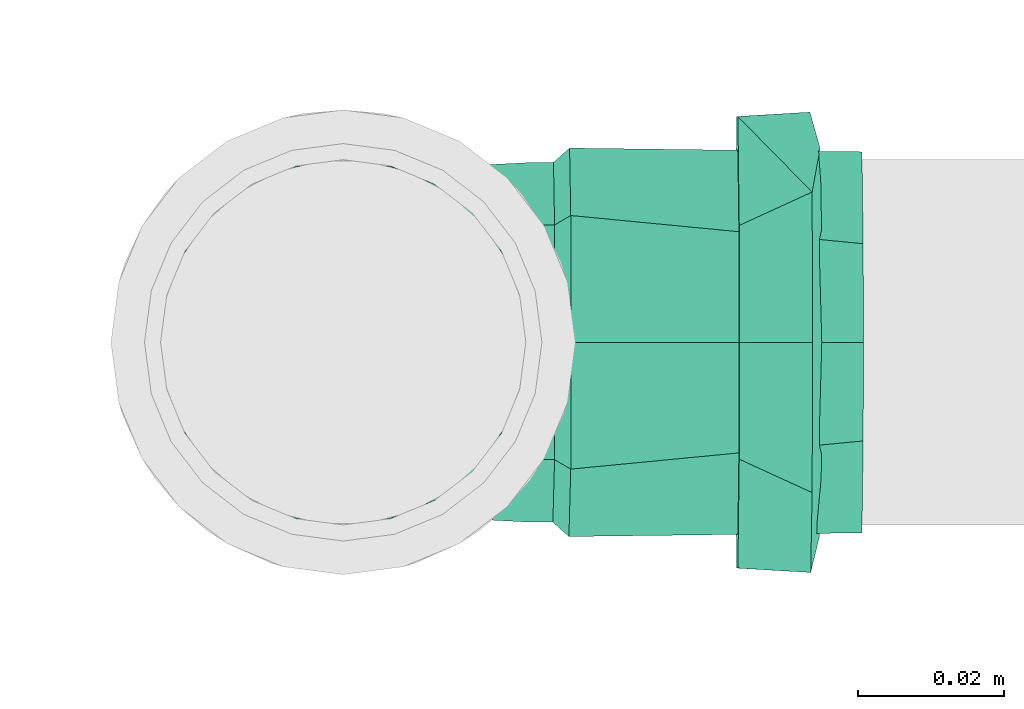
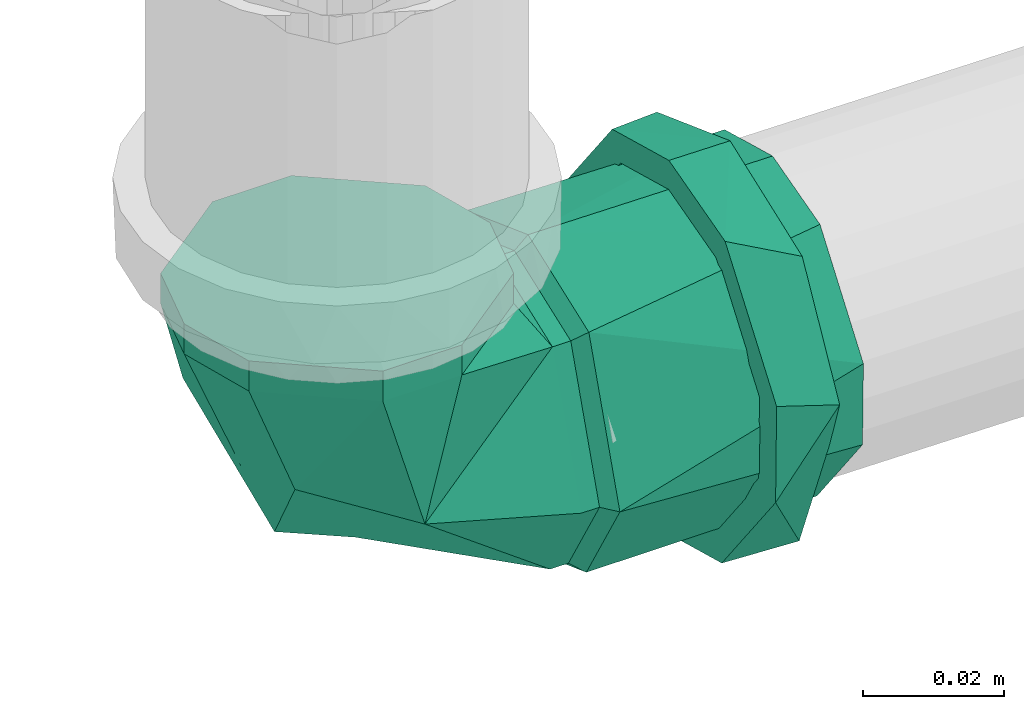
# One storey, part 202 of 589: 1 flow fitting.
"""IFC2X3 building model written with IfcOpenShell, lengths in millimetres."""

from ifc_helpers import new_model, entity, si_unit, converted_unit, derived_unit, direction, frame, origin, place, context, subcontext, project, spatial, faceted_brep, source, transform, mapped, material, type_object, type_shapes, element, save


model = new_model("IFC2X3")

# Units and contexts
model_context = context("Model", 3, precision=0.01, world=origin(), true_north=direction((6.123031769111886e-17, 1.0)))
body_context = subcontext(model_context, "Body", "Model", "MODEL_VIEW")
ifc_project = project(units=[si_unit("LENGTHUNIT", "METRE", prefix="MILLI"), si_unit("AREAUNIT", "SQUARE_METRE"), si_unit("VOLUMEUNIT", "CUBIC_METRE"), converted_unit("PLANEANGLEUNIT", "DEGREE", entity("IfcRatioMeasure", 0.017453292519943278), si_unit("PLANEANGLEUNIT", "RADIAN"), dimensions=[0, 0, 0, 0, 0, 0, 0]), si_unit("MASSUNIT", "GRAM", prefix="KILO"), derived_unit("MASSDENSITYUNIT", [(si_unit("MASSUNIT", "GRAM", prefix="KILO"), 1), (si_unit("LENGTHUNIT", "METRE"), -3)]), derived_unit("IONCONCENTRATIONUNIT", [(si_unit("MASSUNIT", "GRAM", prefix="KILO"), 1), (si_unit("LENGTHUNIT", "METRE"), -3)]), derived_unit("MOMENTOFINERTIAUNIT", [(si_unit("LENGTHUNIT", "METRE"), 4)]), si_unit("TIMEUNIT", "SECOND"), si_unit("FREQUENCYUNIT", "HERTZ"), si_unit("THERMODYNAMICTEMPERATUREUNIT", "DEGREE_CELSIUS"), derived_unit("THERMALTRANSMITTANCEUNIT", [(si_unit("MASSUNIT", "GRAM", prefix="KILO"), 1), (si_unit("THERMODYNAMICTEMPERATUREUNIT", "KELVIN"), -1), (si_unit("TIMEUNIT", "SECOND"), -3)]), derived_unit("THERMALCONDUCTANCEUNIT", [(si_unit("MASSUNIT", "GRAM", prefix="KILO"), 1), (si_unit("THERMODYNAMICTEMPERATUREUNIT", "KELVIN"), -1), (si_unit("TIMEUNIT", "SECOND"), -3), (si_unit("LENGTHUNIT", "METRE"), 1)]), derived_unit("VOLUMETRICFLOWRATEUNIT", [(si_unit("LENGTHUNIT", "METRE"), 3), (si_unit("TIMEUNIT", "SECOND"), -1)]), derived_unit("MASSFLOWRATEUNIT", [(si_unit("MASSUNIT", "GRAM", prefix="KILO"), 1), (si_unit("TIMEUNIT", "SECOND"), -1)]), derived_unit("ROTATIONALFREQUENCYUNIT", [(si_unit("TIMEUNIT", "SECOND"), -1)]), si_unit("ELECTRICCURRENTUNIT", "AMPERE"), si_unit("ELECTRICVOLTAGEUNIT", "VOLT"), si_unit("POWERUNIT", "WATT"), si_unit("FORCEUNIT", "NEWTON", prefix="KILO"), si_unit("ILLUMINANCEUNIT", "LUX"), si_unit("LUMINOUSFLUXUNIT", "LUMEN"), si_unit("LUMINOUSINTENSITYUNIT", "CANDELA"), derived_unit("USERDEFINED", [(si_unit("MASSUNIT", "GRAM", prefix="KILO"), -1), (si_unit("LENGTHUNIT", "METRE"), -2), (si_unit("TIMEUNIT", "SECOND"), 3), (si_unit("LUMINOUSFLUXUNIT", "LUMEN"), 1)]), derived_unit("USERDEFINED", [(si_unit("MASSUNIT", "GRAM", prefix="KILO"), 1), (si_unit("TIMEUNIT", "SECOND"), -3), (si_unit("LENGTHUNIT", "METRE"), 3), (si_unit("ELECTRICCURRENTUNIT", "AMPERE"), -2)]), derived_unit("SOUNDPOWERUNIT", [(si_unit("MASSUNIT", "GRAM", prefix="KILO"), 1), (si_unit("TIMEUNIT", "SECOND"), -3), (si_unit("LENGTHUNIT", "METRE"), 2)]), derived_unit("SOUNDPRESSUREUNIT", [(si_unit("MASSUNIT", "GRAM", prefix="KILO"), 1), (si_unit("LENGTHUNIT", "METRE"), -1), (si_unit("TIMEUNIT", "SECOND"), -2)]), derived_unit("LINEARVELOCITYUNIT", [(si_unit("LENGTHUNIT", "METRE"), 1), (si_unit("TIMEUNIT", "SECOND"), -1)]), si_unit("PRESSUREUNIT", "PASCAL"), derived_unit("USERDEFINED", [(si_unit("MASSUNIT", "GRAM", prefix="KILO"), 1), (si_unit("LENGTHUNIT", "METRE"), -2), (si_unit("TIMEUNIT", "SECOND"), -2)]), derived_unit("LINEARFORCEUNIT", [(si_unit("MASSUNIT", "GRAM", prefix="KILO"), 1), (si_unit("TIMEUNIT", "SECOND"), -2)]), derived_unit("PLANARFORCEUNIT", [(si_unit("MASSUNIT", "GRAM", prefix="KILO"), 1), (si_unit("LENGTHUNIT", "METRE"), -1), (si_unit("TIMEUNIT", "SECOND"), -2)]), derived_unit("SPECIFICHEATCAPACITYUNIT", [(si_unit("THERMODYNAMICTEMPERATUREUNIT", "KELVIN"), -1), (si_unit("LENGTHUNIT", "METRE"), 2), (si_unit("TIMEUNIT", "SECOND"), -2)]), derived_unit("HEATINGVALUEUNIT", [(si_unit("LENGTHUNIT", "METRE"), 2), (si_unit("TIMEUNIT", "SECOND"), -2)]), derived_unit("VAPORPERMEABILITYUNIT", [(si_unit("LENGTHUNIT", "METRE"), -1), (si_unit("TIMEUNIT", "SECOND"), 1)]), derived_unit("DYNAMICVISCOSITYUNIT", [(si_unit("MASSUNIT", "GRAM", prefix="KILO"), 1), (si_unit("TIMEUNIT", "SECOND"), -1), (si_unit("LENGTHUNIT", "METRE"), -1)]), derived_unit("THERMALEXPANSIONCOEFFICIENTUNIT", [(si_unit("THERMODYNAMICTEMPERATUREUNIT", "KELVIN"), -1)]), derived_unit("MODULUSOFELASTICITYUNIT", [(si_unit("MASSUNIT", "GRAM", prefix="KILO"), 1), (si_unit("LENGTHUNIT", "METRE"), -1), (si_unit("TIMEUNIT", "SECOND"), -2)]), derived_unit("ISOTHERMALMOISTURECAPACITYUNIT", [(si_unit("LENGTHUNIT", "METRE"), 3), (si_unit("MASSUNIT", "GRAM", prefix="KILO"), -1)]), derived_unit("MOISTUREDIFFUSIVITYUNIT", [(si_unit("TIMEUNIT", "SECOND"), -1), (si_unit("LENGTHUNIT", "METRE"), 2)])], contexts=[model_context])

# Site, building, storey
site_placement = place(None, origin())
site = spatial("IfcSite", under=ifc_project, at=site_placement, Name="Default", CompositionType="ELEMENT")
building_placement = place(site_placement, origin())
building = spatial("IfcBuilding", under=site, at=building_placement, CompositionType="ELEMENT")
storey_placement = place(building_placement, frame((0.0, 0.0, 100.0)))
storey = spatial("IfcBuildingStorey", under=building, at=storey_placement, Name="TÉRREO", CompositionType="ELEMENT", Elevation=100.0)

# Flow fitting
ifc_material = material(Name="PVC Série Normal")
pipe_fitting_type = type_object("IfcPipeFittingType", Name="PVC Esgoto_Joelho 45_90_Rodrigo MEP:a. Série Normal", PredefinedType="NOTDEFINED", material=ifc_material)
shared_shape = source(origin(), body_context, "Body", "Brep", [
    faceted_brep([(25.256150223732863, -25.490025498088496, 0.0), (21.906952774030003, -25.52351747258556, -12.500000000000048), (6.727552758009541, -25.675311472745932, -24.14814565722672), (-6.21275249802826, -25.804714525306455, -24.1481456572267), (-21.392152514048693, -25.956508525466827, -12.499999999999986), (-24.741349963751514, -25.990000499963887, 0.0), (-21.392152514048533, -25.95650852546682, 12.500000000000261), (-6.212752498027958, -25.804714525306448, 24.14814565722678), (6.7275527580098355, -25.675311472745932, 24.148145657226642), (21.906952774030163, -25.52351747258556, 12.499999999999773), (-6.160755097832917, -31.00445454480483, 24.14814565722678), (-21.340155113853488, -31.1562485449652, 12.500000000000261), (-24.689352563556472, -31.18974051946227, 0.0), (-21.34015511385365, -31.156248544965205, -12.499999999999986), (-6.160755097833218, -31.004454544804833, -24.1481456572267), (6.779550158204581, -30.87505149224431, -24.14814565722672), (21.958950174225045, -30.72325749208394, -12.500000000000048), (25.308147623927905, -30.689765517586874, 0.0), (21.958950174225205, -30.72325749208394, 12.499999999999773), (6.779550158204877, -30.87505149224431, 24.148145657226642)], [[[0, 1, 2, 3, 4, 5, 6, 7, 8, 9]], [[10, 11, 12, 13, 14, 15, 16, 17, 18, 19]], [[18, 17, 0, 9]], [[19, 18, 9, 8]], [[8, 7, 10, 19]], [[11, 10, 7, 6]], [[12, 11, 6, 5]], [[13, 12, 5, 4]], [[14, 13, 4, 3]], [[3, 2, 15, 14]], [[16, 15, 2, 1]], [[17, 16, 1, 0]]]),
    faceted_brep([(-70.94129996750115, -6.4704761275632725, -24.148145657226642), (-70.94129996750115, 6.47047612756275, -24.14814565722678), (-70.94129996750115, 6.988114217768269, -26.07999730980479), (-70.94129996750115, -6.988114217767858, -26.0799973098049), (-70.94129996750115, -21.6506350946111, -12.499999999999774), (-70.94129996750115, 23.382685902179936, -13.499999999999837), (-70.94129996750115, 21.650635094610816, -12.500000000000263), (-70.94129996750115, 25.0, 0.0), (-70.94129996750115, 27.0, 0.0), (-70.94129996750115, 21.650635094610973, 12.499999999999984), (-70.94129996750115, 23.382685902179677, 13.500000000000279), (-70.94129996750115, 6.470476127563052, 24.1481456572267), (-70.94129996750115, 6.98811421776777, 26.079997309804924), (-70.94129996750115, -6.470476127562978, 24.14814565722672), (-70.94129996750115, -6.988114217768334, 26.07999730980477), (-70.94129996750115, -21.650635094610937, 12.500000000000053), (-70.94129996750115, -23.38268590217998, 13.499999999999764), (-70.94129996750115, -27.0, 0.0), (-70.94129996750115, -25.0, 0.0), (-70.94129996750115, -23.382685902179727, -13.500000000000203), (-30.94129996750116, -25.0, 0.0), (-30.94129996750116, -21.650635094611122, -12.499999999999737), (-30.94129996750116, -6.4704761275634, -24.148145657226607), (-30.94129996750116, 6.470476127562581, -24.148145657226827), (-30.94129996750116, 21.650635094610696, -12.500000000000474), (-30.94129996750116, 25.0, 0.0), (-30.94129996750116, 21.65063509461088, 12.500000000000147), (-30.94129996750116, 6.470476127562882, 24.14814565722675), (-30.94129996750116, -6.470476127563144, 24.148145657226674), (-30.94129996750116, -21.650635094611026, 12.499999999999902), (-30.94129996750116, -27.0, 0.0), (-30.941299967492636, -20.682232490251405, 17.356418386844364), (-30.941299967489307, -7.995013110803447, 21.972787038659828), (-30.941299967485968, 4.692206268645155, 26.589155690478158), (-30.94129996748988, 20.686585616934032, 17.35122979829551), (-30.94129996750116, 27.0, 0.0), (-30.94129996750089, 20.686585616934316, -17.35122979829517), (-30.941299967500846, 8.000524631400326, -21.970780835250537), (-30.941299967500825, -4.6855363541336, -26.59033187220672), (-30.94129996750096, -20.682232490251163, -17.356418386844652), (-28.741299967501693, -4.344635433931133, -24.619588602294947), (-28.741299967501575, -19.15424594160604, -16.06595351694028), (-28.741299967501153, -25.0, 0.0), (-28.741299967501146, 25.0, 0.0), (-28.74129996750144, 19.15021526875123, -16.07075776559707), (-28.74129996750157, 7.402789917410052, -20.345173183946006), (-28.741299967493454, 19.150215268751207, 16.070757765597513), (-28.741299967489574, -7.407893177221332, 20.34331558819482), (-28.741299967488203, 4.338459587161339, 24.620677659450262), (-28.741299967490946, -19.154245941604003, 16.065953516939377), (-25.741299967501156, -25.0, 0.0), (-25.741299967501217, -19.151286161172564, 16.069481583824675), (-25.7412999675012, -7.405117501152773, 20.34485121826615), (-25.741299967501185, 4.3410511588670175, 24.620220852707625), (-25.741299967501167, 19.15106105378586, 16.069749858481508), (-25.741299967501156, 25.0, 0.0), (-25.741299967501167, 19.15106105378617, -16.069749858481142), (-25.741299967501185, 7.4048325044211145, -20.344954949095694), (-25.741299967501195, -4.341396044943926, -24.620160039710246), (-25.741299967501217, -19.15128616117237, -16.069481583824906), (21.90695277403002, -25.523517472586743, -12.500000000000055), (25.256150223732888, -25.490025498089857, 0.0), (21.906952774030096, -25.52351747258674, 12.499999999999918), (6.7275527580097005, -25.67531147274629, 24.148145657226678), (-6.2127524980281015, -25.80471452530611, 24.14814565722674), (-21.3921525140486, -25.956508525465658, 12.500000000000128), (-24.74134996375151, -25.990000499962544, 0.0), (-21.39215251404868, -25.95650852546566, -12.499999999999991), (-6.212752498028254, -25.80471452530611, -24.1481456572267), (6.727552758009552, -25.67531147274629, -24.14814565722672), (-0.875171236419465, -1.4332887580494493, 23.341145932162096), (-3.2027279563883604, 15.730161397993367, 0.0), (16.135012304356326, -8.632944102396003, 15.848254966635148), (10.140389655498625, 10.242300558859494, 0.0), (-25.03773742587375, -25.289366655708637, 0.0), (15.761400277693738, -3.0452732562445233, 0.0), (16.13501175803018, -8.632944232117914, -15.848255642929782), (-0.8358007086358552, -1.5246709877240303, -23.354961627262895)], [[[0, 1, 2]], [[2, 3, 0]], [[4, 0, 3]], [[5, 2, 1]], [[1, 6, 5]], [[6, 7, 5]], [[8, 5, 7]], [[8, 7, 9]], [[10, 8, 9]], [[9, 11, 10]], [[11, 12, 10]], [[13, 12, 11]], [[12, 13, 14]], [[13, 15, 14]], [[16, 14, 15]], [[16, 15, 17]], [[17, 15, 18]], [[18, 4, 19]], [[17, 18, 19]], [[3, 19, 4]], [[4, 18, 20, 21]], [[0, 4, 21, 22]], [[22, 23, 1, 0]], [[6, 1, 23, 24]], [[7, 6, 24, 25]], [[9, 7, 25, 26]], [[11, 9, 26, 27]], [[27, 28, 13, 11]], [[15, 13, 28, 29]], [[18, 15, 29, 20]], [[30, 16, 17]], [[30, 31, 16]], [[14, 16, 31]], [[14, 31, 32, 33]], [[10, 12, 34]], [[8, 10, 35]], [[33, 34, 12]], [[35, 10, 34]], [[14, 33, 12]], [[35, 5, 8]], [[35, 36, 5]], [[2, 5, 36]], [[2, 36, 37, 38]], [[19, 3, 39]], [[17, 19, 30]], [[38, 39, 3]], [[30, 19, 39]], [[2, 38, 3]], [[28, 27, 26, 25, 24, 23, 22, 21, 20, 29]], [[39, 40, 41]], [[30, 41, 42]], [[39, 41, 30]], [[39, 38, 40]], [[36, 43, 44]], [[37, 36, 44]], [[40, 38, 45]], [[43, 36, 35]], [[37, 45, 38]], [[37, 44, 45]], [[34, 46, 43]], [[43, 35, 34]], [[46, 34, 33]], [[47, 32, 31]], [[33, 48, 46]], [[30, 42, 49]], [[49, 47, 31]], [[30, 49, 31]], [[33, 32, 48]], [[47, 48, 32]], [[50, 49, 42]], [[50, 51, 49]], [[48, 52, 53]], [[47, 51, 52]], [[47, 52, 48]], [[47, 49, 51]], [[54, 43, 46]], [[53, 54, 46]], [[55, 43, 54]], [[48, 53, 46]], [[56, 44, 43]], [[55, 56, 43]], [[56, 57, 44]], [[57, 45, 44]], [[57, 58, 45]], [[40, 45, 58]], [[59, 41, 40]], [[59, 50, 41]], [[42, 41, 50]], [[58, 59, 40]], [[60, 61, 62, 63, 64, 65, 66, 67, 68, 69]], [[70, 53, 52, 51]], [[70, 71, 54]], [[71, 55, 54]], [[70, 72, 73]], [[74, 65, 50]], [[50, 65, 51]], [[53, 70, 54]], [[71, 70, 73]], [[62, 61, 75]], [[72, 70, 63]], [[62, 75, 72]], [[66, 65, 74]], [[63, 62, 72]], [[64, 51, 65]], [[51, 64, 70]], [[75, 73, 72]], [[70, 64, 63]], [[75, 76, 73]], [[56, 55, 71]], [[68, 59, 77]], [[58, 77, 59]], [[56, 71, 77]], [[77, 58, 57, 56]], [[76, 69, 77]], [[67, 50, 59]], [[67, 66, 74]], [[73, 77, 71]], [[59, 68, 67]], [[76, 75, 60]], [[75, 61, 60]], [[76, 77, 73]], [[60, 69, 76]], [[77, 69, 68]], [[74, 50, 67]]]),
    faceted_brep([(-53.94129996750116, 8.282209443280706, -30.909626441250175), (-53.94129996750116, 6.988114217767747, -26.079997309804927), (-53.94129996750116, -6.9881142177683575, -26.07999730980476), (-53.94129996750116, 27.712812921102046, -16.0), (-53.94129996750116, -8.28220944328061, -30.9096264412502), (-53.94129996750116, 23.38268590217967, -13.500000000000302), (-53.94129996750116, 27.0, 0.0), (-53.94129996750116, 32.0, 0.0), (-53.94129996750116, 23.382685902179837, 13.500000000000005), (-53.94129996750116, 27.712812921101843, 16.0), (-53.94129996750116, 6.988114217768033, 26.07999730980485), (-53.94129996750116, 8.28220944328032, 30.909626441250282), (-53.94129996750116, -6.988114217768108, 26.07999730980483), (-53.94129996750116, -8.282209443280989, 30.909626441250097), (-53.94129996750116, -23.382685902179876, 13.499999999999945), (-53.94129996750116, -27.712812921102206, 16.0), (-53.94129996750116, -32.0, 0.0), (-53.94129996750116, -27.0, 0.0), (-53.94129996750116, -27.712812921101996, -16.0), (-53.94129996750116, -23.38268590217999, -13.499999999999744), (-63.94129996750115, -23.38268590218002, -13.499999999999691), (-63.94129996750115, -25.19134295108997, -6.750000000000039), (-65.24129996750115, -27.0, 0.0), (-63.94129996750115, -27.0, 0.0), (-63.94129996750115, -6.988114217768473, -26.07999730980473), (-63.94129996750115, -11.086757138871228, -22.934997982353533), (-63.94129996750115, -15.185400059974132, -19.789998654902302), (-63.94129996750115, -19.284042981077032, -16.644999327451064), (-63.94129996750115, 6.988114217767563, -26.079997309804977), (-63.94129996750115, 0.0, -26.079997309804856), (-63.94129996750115, 23.382685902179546, -13.50000000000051), (-63.94129996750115, 19.284042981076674, -16.644999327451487), (-63.94129996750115, 15.185400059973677, -19.789998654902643), (-63.94129996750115, 11.086757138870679, -22.9349979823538), (-63.94129996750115, 27.0, 0.0), (-65.24129996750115, 27.0, 0.0), (-63.94129996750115, 25.191342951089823, -6.749999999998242), (-63.94129996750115, 23.382685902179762, 13.500000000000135), (-63.94129996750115, 25.191342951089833, 6.7500000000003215), (-63.94129996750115, 6.988114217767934, 26.079997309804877), (-63.94129996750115, 11.086757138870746, 22.934997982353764), (-63.94129996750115, 15.185400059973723, 19.7899986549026), (-63.94129996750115, 19.284042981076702, 16.64499932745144), (-63.94129996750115, -6.988114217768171, 26.079997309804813), (-63.94129996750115, 0.0, 26.079997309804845), (-63.94129996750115, -23.382685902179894, 13.499999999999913), (-63.94129996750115, -19.284042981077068, 16.644999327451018), (-63.94129996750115, -15.185400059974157, 19.789998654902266), (-63.94129996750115, -11.086757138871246, 22.93499798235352), (-63.94129996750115, -25.19134295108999, 6.749999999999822), (-63.94129996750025, -24.512275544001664, 20.570569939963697), (-63.94129996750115, -32.0, 0.0), (-63.94129996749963, -5.553228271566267, 31.51446740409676), (-63.94129996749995, 24.51743480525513, 20.56442050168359), (-63.94129996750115, 32.0, 0.0), (-63.9412999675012, 24.51743480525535, -20.564420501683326), (-63.94129996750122, 5.561133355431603, -31.513073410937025), (-63.94129996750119, -24.512275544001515, -20.570569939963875), (-65.24129996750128, 20.686585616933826, -17.351229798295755), (-65.24129996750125, -20.6822324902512, -17.356418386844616), (-65.24129996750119, -23.841116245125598, -8.678209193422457), (-65.24129996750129, 14.343555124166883, -19.661005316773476), (-65.24129996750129, 8.00052463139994, -21.970780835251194), (-65.2412999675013, 1.6574941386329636, -24.280556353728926), (-65.24129996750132, -4.685536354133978, -26.590331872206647), (-65.24129996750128, -12.683884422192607, -21.973375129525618), (-65.2412999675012, 23.84329280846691, -8.675614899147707), (-65.24129996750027, -20.68223249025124, 17.35641838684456), (-65.24129996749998, 20.68658561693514, 17.351229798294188), (-65.24129996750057, 23.843292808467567, 8.67561489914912), (-65.2412999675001, -14.338622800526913, 19.664602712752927), (-65.24129996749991, -7.995013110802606, 21.97278703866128), (-65.24129996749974, -1.6514034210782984, 24.28097136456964), (-65.24129996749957, 4.692206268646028, 26.58915569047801), (-65.24129996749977, 12.689395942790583, 21.9701927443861), (-65.24129996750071, -23.84111624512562, 8.678209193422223)], [[[0, 1, 2]], [[1, 0, 3]], [[2, 4, 0]], [[3, 5, 1]], [[3, 6, 5]], [[6, 3, 7]], [[8, 6, 7]], [[8, 7, 9]], [[9, 10, 8]], [[9, 11, 10]], [[10, 11, 12]], [[13, 12, 11]], [[13, 14, 12]], [[14, 13, 15]], [[16, 14, 15]], [[17, 14, 16]], [[18, 17, 16]], [[18, 19, 17]], [[19, 18, 4]], [[4, 2, 19]], [[20, 21, 22, 23, 17, 19]], [[24, 25, 26, 27, 20, 19, 2]], [[2, 1, 28, 29, 24]], [[30, 31, 32, 33, 28, 1, 5]], [[34, 35, 36, 30, 5, 6]], [[37, 38, 35, 34, 6, 8]], [[39, 40, 41, 42, 37, 8, 10]], [[10, 12, 43, 44, 39]], [[45, 46, 47, 48, 43, 12, 14]], [[23, 22, 49, 45, 14, 17]], [[15, 50, 51]], [[16, 15, 51]], [[13, 50, 15]], [[13, 52, 50]], [[53, 52, 11]], [[54, 53, 9]], [[11, 9, 53]], [[7, 54, 9]], [[13, 11, 52]], [[3, 55, 54]], [[7, 3, 54]], [[0, 55, 3]], [[0, 56, 55]], [[57, 56, 4]], [[51, 57, 18]], [[4, 18, 57]], [[16, 51, 18]], [[0, 4, 56]], [[58, 32, 31, 30]], [[59, 60, 20]], [[33, 61, 62]], [[32, 61, 33]], [[29, 63, 64]], [[24, 64, 65]], [[26, 59, 20, 27]], [[28, 63, 29]], [[64, 24, 29]], [[62, 28, 33]], [[24, 65, 26, 25]], [[22, 21, 60]], [[35, 66, 36]], [[32, 58, 61]], [[62, 63, 28]], [[58, 30, 66]], [[59, 26, 65]], [[66, 30, 36]], [[21, 20, 60]], [[67, 47, 46, 45]], [[68, 69, 37]], [[48, 70, 71]], [[47, 70, 48]], [[44, 72, 73]], [[39, 73, 74]], [[41, 68, 37, 42]], [[43, 72, 44]], [[73, 39, 44]], [[71, 43, 48]], [[39, 74, 41, 40]], [[35, 38, 69]], [[22, 75, 49]], [[47, 67, 70]], [[71, 72, 43]], [[67, 45, 75]], [[68, 41, 74]], [[75, 45, 49]], [[38, 37, 69]], [[54, 55, 58, 66, 35]], [[58, 55, 56]], [[56, 64, 63, 62, 61, 58]], [[57, 59, 65, 64]], [[51, 22, 60, 59, 57]], [[56, 57, 64]], [[51, 50, 67, 75, 22]], [[67, 50, 52]], [[52, 73, 72, 71, 70, 67]], [[53, 68, 74, 73]], [[54, 35, 69, 68, 53]], [[52, 53, 73]]]),
])
type_shapes(pipe_fitting_type, [shared_shape])
flow_fitting_placement = place(storey_placement, frame((7346.407229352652, 850.8590199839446, 98.44008618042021), z_axis=(0.0, -1.0, 0.0), x_axis=(-0.9999500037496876, 0.0, 0.009999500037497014)))
element("IfcFlowFitting", 1, at=flow_fitting_placement, inside=storey, type_object=pipe_fitting_type, material=ifc_material, Name="PVC Esgoto_Joelho 45_90_Rodrigo MEP:a. Série Normal", ObjectType="PVC Esgoto_Joelho 45_90_Rodrigo MEP:a. Série Normal", context=body_context, shape_type="MappedRepresentation", body=[
    mapped(shared_shape, transform((0.0, 0.0, 0.0), scale=1.0)),
])

save(model, "model.ifc")
